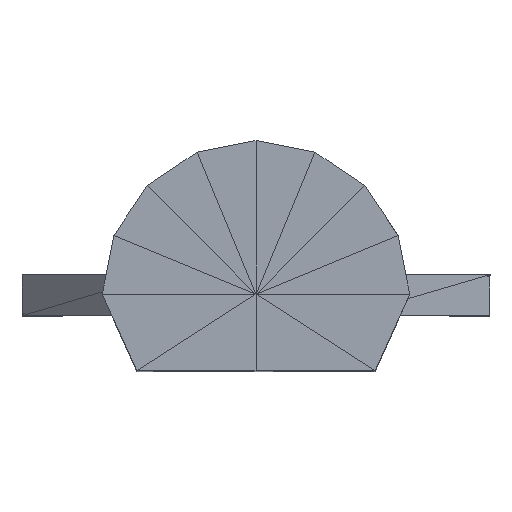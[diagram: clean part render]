
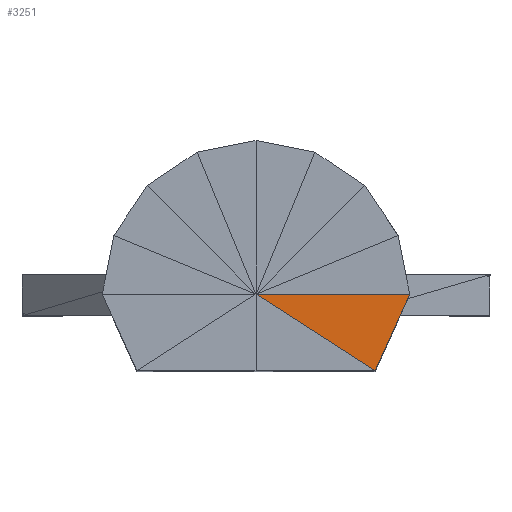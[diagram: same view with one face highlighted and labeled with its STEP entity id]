
A CAD part, top view. The second image highlights one B-rep face of the part: STEP entity #3251.
In plain terms, the highlighted planar face has unit normal (0, 0, 1).
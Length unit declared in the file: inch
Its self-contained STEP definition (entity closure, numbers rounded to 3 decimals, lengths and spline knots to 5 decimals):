
#2768=CARTESIAN_POINT('',(0.,0.,0.40875));
#2769=VERTEX_POINT('',#2768);
#3056=CARTESIAN_POINT('',(0.09,-0.,0.40875));
#3057=VERTEX_POINT('',#3056);
#3058=CARTESIAN_POINT('',(0.,0.,0.40875));
#3059=DIRECTION('',(1.,0.,-0.));
#3060=VECTOR('',#3059,0.09);
#3061=LINE('',#3058,#3060);
#3062=EDGE_CURVE('',#2769,#3057,#3061,.T.);
#3229=CARTESIAN_POINT('',(0.09,0.,0.40875));
#3230=DIRECTION('',(0.,0.,1.));
#3231=DIRECTION('',(1.,0.,0.));
#3232=AXIS2_PLACEMENT_3D('',#3229,#3230,#3231);
#3233=PLANE('',#3232);
#3234=ORIENTED_EDGE('',*,*,#3062,.F.);
#3235=CARTESIAN_POINT('',(0.06975,-0.045,0.40875));
#3236=VERTEX_POINT('',#3235);
#3237=CARTESIAN_POINT('',(0.,0.,0.40875));
#3238=DIRECTION('',(0.84,-0.542,0.));
#3239=VECTOR('',#3238,0.08301);
#3240=LINE('',#3237,#3239);
#3241=EDGE_CURVE('',#2769,#3236,#3240,.T.);
#3242=ORIENTED_EDGE('',*,*,#3241,.T.);
#3243=CARTESIAN_POINT('',(0.06975,-0.045,0.40875));
#3244=DIRECTION('',(0.41,0.912,0.));
#3245=VECTOR('',#3244,0.04935);
#3246=LINE('',#3243,#3245);
#3247=EDGE_CURVE('',#3236,#3057,#3246,.T.);
#3248=ORIENTED_EDGE('',*,*,#3247,.T.);
#3249=EDGE_LOOP('',(#3234,#3242,#3248));
#3250=FACE_BOUND('',#3249,.T.);
#3251=ADVANCED_FACE('',(#3250),#3233,.T.);
